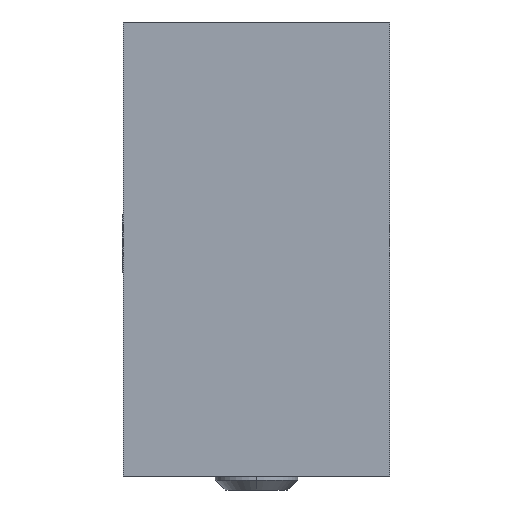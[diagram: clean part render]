
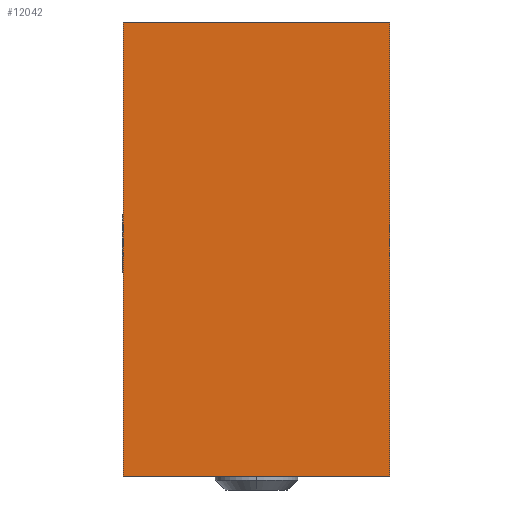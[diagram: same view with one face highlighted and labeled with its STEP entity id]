
A CAD part, left-side view. The second image highlights one B-rep face of the part: STEP entity #12042.
In plain terms, the highlighted planar face has unit normal (-1, 0, 0).
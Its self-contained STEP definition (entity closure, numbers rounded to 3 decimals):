
#93 = VERTEX_POINT ( 'NONE', #1494 ) ;
#272 = DIRECTION ( 'NONE',  ( 1., 0., 0. ) ) ;
#523 = CARTESIAN_POINT ( 'NONE',  ( -47., -20.5, 35. ) ) ;
#1157 = VECTOR ( 'NONE', #12077, 1000. ) ;
#1494 = CARTESIAN_POINT ( 'NONE',  ( -47., 20.5, -35. ) ) ;
#1748 = EDGE_CURVE ( 'NONE', #3584, #7796, #14713, .T. ) ;
#2225 = DIRECTION ( 'NONE',  ( 0., -1., 0. ) ) ;
#2303 = LINE ( 'NONE', #5820, #16288 ) ;
#2731 = VERTEX_POINT ( 'NONE', #10029 ) ;
#2875 = DIRECTION ( 'NONE',  ( 0., 0., -1. ) ) ;
#3157 = ORIENTED_EDGE ( 'NONE', *, *, #1748, .F. ) ;
#3584 = VERTEX_POINT ( 'NONE', #10742 ) ;
#4221 = LINE ( 'NONE', #12041, #8453 ) ;
#4862 = CARTESIAN_POINT ( 'NONE',  ( -47., -20.5, 35. ) ) ;
#5820 = CARTESIAN_POINT ( 'NONE',  ( -47., -20.5, -35. ) ) ;
#6539 = FACE_OUTER_BOUND ( 'NONE', #14707, .T. ) ;
#6792 = AXIS2_PLACEMENT_3D ( 'NONE', #14440, #272, #2875 ) ;
#7476 = DIRECTION ( 'NONE',  ( 0., -1., 0. ) ) ;
#7796 = VERTEX_POINT ( 'NONE', #10566 ) ;
#8251 = EDGE_CURVE ( 'NONE', #2731, #93, #4221, .T. ) ;
#8453 = VECTOR ( 'NONE', #14580, 1000. ) ;
#8731 = LINE ( 'NONE', #4862, #14586 ) ;
#10029 = CARTESIAN_POINT ( 'NONE',  ( -47., 20.5, 35. ) ) ;
#10038 = EDGE_CURVE ( 'NONE', #93, #7796, #2303, .T. ) ;
#10566 = CARTESIAN_POINT ( 'NONE',  ( -47., -20.5, -35. ) ) ;
#10742 = CARTESIAN_POINT ( 'NONE',  ( -47., -20.5, 35. ) ) ;
#12041 = CARTESIAN_POINT ( 'NONE',  ( -47., 20.5, 35. ) ) ;
#12042 = ADVANCED_FACE ( 'NONE', ( #6539 ), #15683, .F. ) ;
#12077 = DIRECTION ( 'NONE',  ( 0., 0., -1. ) ) ;
#13028 = EDGE_CURVE ( 'NONE', #2731, #3584, #8731, .T. ) ;
#13529 = ORIENTED_EDGE ( 'NONE', *, *, #10038, .T. ) ;
#14440 = CARTESIAN_POINT ( 'NONE',  ( -47., -20.5, 35. ) ) ;
#14580 = DIRECTION ( 'NONE',  ( 0., 0., -1. ) ) ;
#14586 = VECTOR ( 'NONE', #2225, 1000. ) ;
#14707 = EDGE_LOOP ( 'NONE', ( #13529, #3157, #16653, #16720 ) ) ;
#14713 = LINE ( 'NONE', #523, #1157 ) ;
#15683 = PLANE ( 'NONE',  #6792 ) ;
#16288 = VECTOR ( 'NONE', #7476, 1000. ) ;
#16653 = ORIENTED_EDGE ( 'NONE', *, *, #13028, .F. ) ;
#16720 = ORIENTED_EDGE ( 'NONE', *, *, #8251, .T. ) ;
